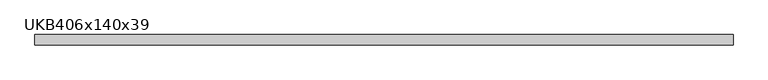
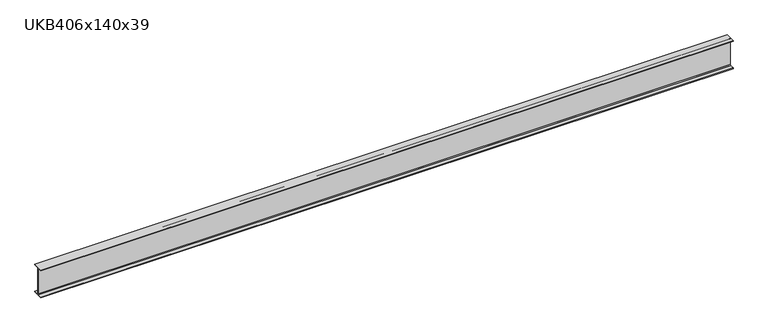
"""IFC4 building model written with IfcOpenShell, lengths in millimetres: beam geometry, UKB-UK Beams : UKB406x140x39."""

from ifc_helpers import new_model, si_unit, point, frame, frame_2d, origin, place, context, project, spatial, polyline, circle_curve, trimmed, segment, composite_curve, outline, extrude, source, transform, mapped, element, save


def ukb406x140x39_976f695d(model_context):
    return source(origin(), model_context, "Body", "SweptSolid", [
        extrude(outline(composite_curve([segment(polyline([(70.9, -190.4), (70.9, -199.0), (-70.9, -199.0), (-70.9, -190.4), (-13.4, -190.4)]), True, "CONTINUOUS"), segment(trimmed(circle_curve(frame_2d((-13.4, -180.2)), 10.2), [point((-13.4, -190.4))], [point((-3.2, -180.2))], True, "CARTESIAN"), True, "CONTINUOUS"), segment(polyline([(-3.2, -180.2), (-3.2, 180.2)]), True, "CONTINUOUS"), segment(trimmed(circle_curve(frame_2d((-13.4, 180.2)), 10.2), [point((-3.2, 180.2))], [point((-13.4, 190.4))], True, "CARTESIAN"), True, "CONTINUOUS"), segment(polyline([(-13.4, 190.4), (-70.9, 190.4), (-70.9, 199.0), (70.9, 199.0), (70.9, 190.4), (13.4, 190.4)]), True, "CONTINUOUS"), segment(trimmed(circle_curve(frame_2d((13.4, 180.2)), 10.2), [point((13.4, 190.4))], [point((3.2, 180.2))], True, "CARTESIAN"), True, "CONTINUOUS"), segment(polyline([(3.2, 180.2), (3.2, -180.2)]), True, "CONTINUOUS"), segment(trimmed(circle_curve(frame_2d((13.4, -180.2)), 10.2), [point((3.2, -180.2))], [point((13.4, -190.4))], True, "CARTESIAN"), True, "CONTINUOUS"), segment(polyline([(13.4, -190.4), (70.9, -190.4)]), True, "CONTINUOUS")], self_intersect=False)), frame((-4705.5, 0.0, 0.0), z_axis=(1.0, 0.0, 0.0), x_axis=(0.0, 1.0, 0.0)), (0.0, 0.0, 1.0), 9411.0),
    ])


if __name__ == "__main__":
    model = new_model("IFC4")
    model_context = context("Model", 3, world=origin())
    ifc_project = project(units=[si_unit("LENGTHUNIT", "METRE", prefix="MILLI")], contexts=[model_context])
    site = spatial("IfcSite", under=ifc_project)
    building = spatial("IfcBuilding", under=site)
    placement = place(None, origin())
    ukb406x140x39_shape = ukb406x140x39_976f695d(model_context)
    element("IfcBeam", 1, ObjectType="UKB-UK Beams : UKB406x140x39", at=placement, inside=building, context=model_context, shape_type="MappedRepresentation", body=[
        mapped(ukb406x140x39_shape, transform((0.0, 0.0, 0.0), x_axis=(1.0, 0.0, 0.0), y_axis=(0.0, 1.0, 0.0), z_axis=(0.0, 0.0, 1.0))),
    ])
    save(model, "model.ifc")
